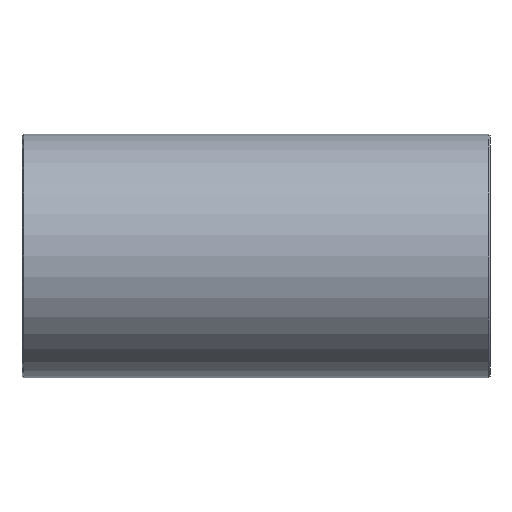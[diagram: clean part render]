
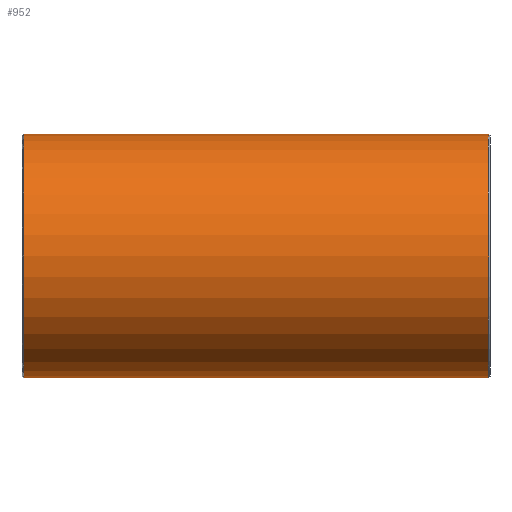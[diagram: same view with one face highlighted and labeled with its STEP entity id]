
A CAD part, front view. The second image highlights one B-rep face of the part: STEP entity #952.
In plain terms, the highlighted cylindrical face has radius 16.25 mm (diameter 32.5 mm), a full revolution.
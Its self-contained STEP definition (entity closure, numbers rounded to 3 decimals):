
#824=CARTESIAN_POINT('',(31.,16.25,0.));
#825=VERTEX_POINT('',#824);
#826=CARTESIAN_POINT('',(31.,0.0,0.0));
#827=DIRECTION('',(1.0,0.0,0.0));
#828=DIRECTION('',(0.0,-1.0,0.0));
#829=AXIS2_PLACEMENT_3D('',#826,#827,#828);
#830=CIRCLE('',#829,16.25);
#831=EDGE_CURVE('',#825,#825,#830,.T.);
#867=CARTESIAN_POINT('',(0.,0.0,0.0));
#868=DIRECTION('',(1.0,0.0,0.0));
#869=DIRECTION('',(0.0,1.0,0.0));
#870=AXIS2_PLACEMENT_3D('',#867,#868,#869);
#871=CYLINDRICAL_SURFACE('',#870,16.25);
#872=CARTESIAN_POINT('',(-31.0,16.25,0.));
#873=VERTEX_POINT('',#872);
#874=CARTESIAN_POINT('',(-31.0,0.0,0.0));
#875=DIRECTION('',(-1.0,0.0,0.0));
#876=DIRECTION('',(0.0,-1.0,0.0));
#877=AXIS2_PLACEMENT_3D('',#874,#875,#876);
#878=CIRCLE('',#877,16.25);
#879=EDGE_CURVE('',#873,#873,#878,.T.);
#880=ORIENTED_EDGE('',*,*,#879,.F.);
#881=EDGE_LOOP('',(#880));
#882=FACE_OUTER_BOUND('',#881,.T.);
#883=CARTESIAN_POINT('',(0.,14.774,6.766));
#884=VERTEX_POINT('',#883);
#885=CARTESIAN_POINT('',(0.,14.774,6.766));
#886=CARTESIAN_POINT('',(0.151,14.774,6.766));
#887=CARTESIAN_POINT('',(0.755,14.781,6.752));
#888=CARTESIAN_POINT('',(1.663,14.831,6.642));
#889=CARTESIAN_POINT('',(2.676,14.941,6.393));
#890=CARTESIAN_POINT('',(3.777,15.103,6.005));
#891=CARTESIAN_POINT('',(4.731,15.298,5.496));
#892=CARTESIAN_POINT('',(5.397,15.46,5.007));
#893=CARTESIAN_POINT('',(5.822,15.569,4.659));
#894=CARTESIAN_POINT('',(6.336,15.71,4.175));
#895=CARTESIAN_POINT('',(6.815,15.854,3.586));
#896=CARTESIAN_POINT('',(7.193,15.973,2.999));
#897=CARTESIAN_POINT('',(7.523,16.081,2.384));
#898=CARTESIAN_POINT('',(7.839,16.188,1.528));
#899=CARTESIAN_POINT('',(7.976,16.236,0.772));
#900=CARTESIAN_POINT('',(8.023,16.253,0.091));
#901=CARTESIAN_POINT('',(8.008,16.247,-0.597));
#902=CARTESIAN_POINT('',(7.877,16.202,-1.316));
#903=CARTESIAN_POINT('',(7.676,16.133,-1.969));
#904=CARTESIAN_POINT('',(7.448,16.056,-2.532));
#905=CARTESIAN_POINT('',(7.174,15.967,-3.032));
#906=CARTESIAN_POINT('',(6.786,15.845,-3.621));
#907=CARTESIAN_POINT('',(6.284,15.694,-4.239));
#908=CARTESIAN_POINT('',(5.575,15.502,-4.884));
#909=CARTESIAN_POINT('',(4.968,15.357,-5.317));
#910=CARTESIAN_POINT('',(4.329,15.216,-5.709));
#911=CARTESIAN_POINT('',(3.516,15.061,-6.108));
#912=CARTESIAN_POINT('',(2.391,14.901,-6.484));
#913=CARTESIAN_POINT('',(1.22,14.799,-6.713));
#914=CARTESIAN_POINT('',(0.001,14.762,-6.792));
#915=CARTESIAN_POINT('',(-0.86,14.788,-6.737));
#916=CARTESIAN_POINT('',(-1.453,14.825,-6.655));
#917=CARTESIAN_POINT('',(-1.848,14.854,-6.589));
#918=CARTESIAN_POINT('',(-2.576,14.928,-6.423));
#919=CARTESIAN_POINT('',(-3.421,15.047,-6.14));
#920=CARTESIAN_POINT('',(-4.112,15.175,-5.815));
#921=CARTESIAN_POINT('',(-4.772,15.311,-5.449));
#922=CARTESIAN_POINT('',(-5.434,15.466,-5.003));
#923=CARTESIAN_POINT('',(-6.251,15.685,-4.274));
#924=CARTESIAN_POINT('',(-6.931,15.888,-3.454));
#925=CARTESIAN_POINT('',(-7.349,16.024,-2.728));
#926=CARTESIAN_POINT('',(-7.629,16.117,-2.095));
#927=CARTESIAN_POINT('',(-7.91,16.213,-1.286));
#928=CARTESIAN_POINT('',(-8.045,16.261,-0.285));
#929=CARTESIAN_POINT('',(-7.985,16.239,0.734));
#930=CARTESIAN_POINT('',(-7.875,16.201,1.302));
#931=CARTESIAN_POINT('',(-7.721,16.148,1.83));
#932=CARTESIAN_POINT('',(-7.543,16.088,2.319));
#933=CARTESIAN_POINT('',(-7.254,15.992,2.903));
#934=CARTESIAN_POINT('',(-6.831,15.859,3.566));
#935=CARTESIAN_POINT('',(-6.448,15.744,4.034));
#936=CARTESIAN_POINT('',(-6.022,15.624,4.471));
#937=CARTESIAN_POINT('',(-5.618,15.515,4.84));
#938=CARTESIAN_POINT('',(-4.795,15.311,5.462));
#939=CARTESIAN_POINT('',(-3.523,15.051,6.14));
#940=CARTESIAN_POINT('',(-2.25,14.885,6.52));
#941=CARTESIAN_POINT('',(-1.06,14.795,6.723));
#942=CARTESIAN_POINT('',(-0.452,14.774,6.766));
#943=CARTESIAN_POINT('',(0.,14.774,6.766));
#944=B_SPLINE_CURVE_WITH_KNOTS('',3,(#885,#886,#887,#888,#889,#890,#891,#892,#893,#894,#895,#896,#897,#898,#899,#900,#901,#902,#903,#904,#905,#906,#907,#908,#909,#910,#911,#912,#913,#914,#915,#916,#917,#918,#919,#920,#921,#922,#923,#924,#925,#926,#927,#928,#929,#930,#931,#932,#933,#934,#935,#936,#937,#938,#939,#940,#941,#942,#943),.UNSPECIFIED.,.T.,.U.,(4,1,1,1,1,1,1,1,1,1,1,1,1,1,1,1,1,1,1,1,1,1,1,1,1,1,1,1,1,1,1,1,1,1,1,1,1,1,1,1,1,1,1,1,1,1,1,1,1,1,1,1,1,1,1,1,4),(-3.044,-3.017,-2.935,-2.881,-2.827,-2.718,-2.677,-2.664,-2.609,-2.537,-2.51,-2.464,-2.392,-2.319,-2.301,-2.247,-2.174,-2.147,-2.102,-2.048,-2.029,-1.957,-1.884,-1.839,-1.812,-1.739,-1.667,-1.595,-1.522,-1.45,-1.441,-1.413,-1.377,-1.305,-1.25,-1.232,-1.16,-1.096,-1.015,-0.942,-0.924,-0.87,-0.761,-0.713,-0.652,-0.639,-0.598,-0.544,-0.503,-0.435,-0.421,-0.381,-0.326,-0.217,-0.109,-0.082,0.0),.UNSPECIFIED.);
#945=EDGE_CURVE('',#884,#884,#944,.T.);
#946=ORIENTED_EDGE('',*,*,#945,.F.);
#947=EDGE_LOOP('',(#946));
#948=FACE_BOUND('',#947,.T.);
#949=ORIENTED_EDGE('',*,*,#831,.F.);
#950=EDGE_LOOP('',(#949));
#951=FACE_BOUND('',#950,.T.);
#952=ADVANCED_FACE('',(#882,#948,#951),#871,.T.);
